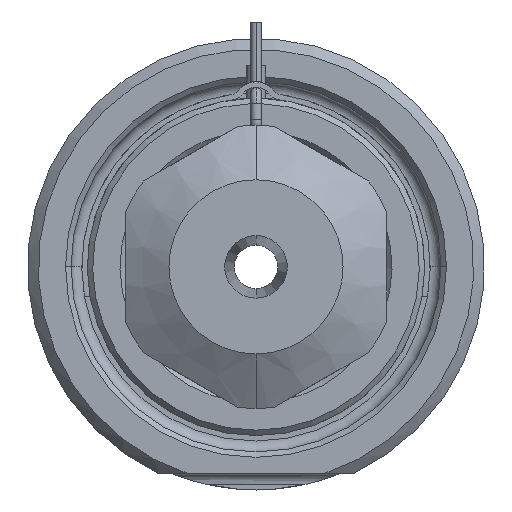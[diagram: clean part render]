
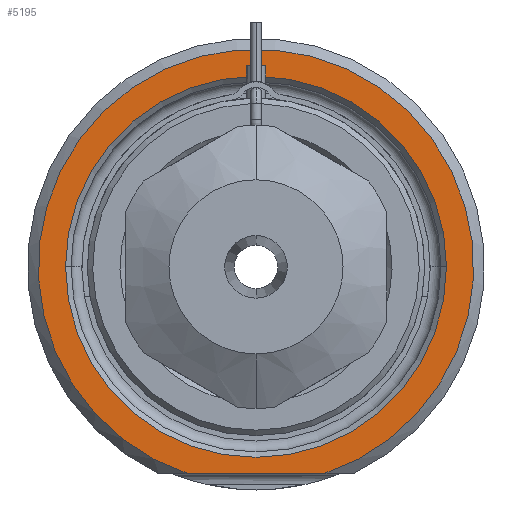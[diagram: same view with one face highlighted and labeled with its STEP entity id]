
A CAD part, front view. The second image highlights one B-rep face of the part: STEP entity #5195.
In plain terms, the highlighted planar face has unit normal (0, -1, 0).
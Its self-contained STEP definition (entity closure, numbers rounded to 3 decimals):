
#1583=DIRECTION('',(1.,0.,0.));
#1584=VECTOR('',#1583,12.49);
#1585=CARTESIAN_POINT('',(-6.245,0.,-19.));
#1586=LINE('',#1585,#1584);
#1587=CARTESIAN_POINT('',(0.,0.,0.));
#1588=DIRECTION('',(0.,1.,0.));
#1589=DIRECTION('',(-1.,0.,0.));
#1590=AXIS2_PLACEMENT_3D('',#1587,#1588,#1589);
#1592=CARTESIAN_POINT('',(0.,0.,0.));
#1593=DIRECTION('',(0.,1.,0.));
#1594=DIRECTION('',(1.,0.,0.));
#1595=AXIS2_PLACEMENT_3D('',#1592,#1593,#1594);
#1701=CARTESIAN_POINT('',(0.,0.,0.));
#1702=DIRECTION('',(0.,-1.,0.));
#1703=DIRECTION('',(0.312,0.,-0.95));
#1704=AXIS2_PLACEMENT_3D('',#1701,#1702,#1703);
#2795=CARTESIAN_POINT('',(-17.5,0.,0.));
#2796=CARTESIAN_POINT('',(17.5,0.,0.));
#2797=VERTEX_POINT('',#2795);
#2798=VERTEX_POINT('',#2796);
#2839=CARTESIAN_POINT('',(-6.245,0.,-19.));
#2840=CARTESIAN_POINT('',(6.245,0.,-19.));
#2841=VERTEX_POINT('',#2839);
#2842=VERTEX_POINT('',#2840);
#5179=CARTESIAN_POINT('',(0.,0.,0.));
#5180=DIRECTION('',(0.,-1.,0.));
#5181=DIRECTION('',(1.,0.,0.));
#5182=AXIS2_PLACEMENT_3D('',#5179,#5180,#5181);
#5183=PLANE('',#5182);
#5185=ORIENTED_EDGE('',*,*,#5184,.F.);
#5187=ORIENTED_EDGE('',*,*,#5186,.F.);
#5188=EDGE_LOOP('',(#5185,#5187));
#5189=FACE_OUTER_BOUND('',#5188,.F.);
#5190=ORIENTED_EDGE('',*,*,#5169,.F.);
#5192=ORIENTED_EDGE('',*,*,#5191,.F.);
#5193=EDGE_LOOP('',(#5190,#5192));
#5194=FACE_BOUND('',#5193,.F.);
#5195=ADVANCED_FACE('',(#5189,#5194),#5183,.T.);
#1591=CIRCLE('',#1590,17.5);
#1596=CIRCLE('',#1595,17.5);
#1705=CIRCLE('',#1704,20.);
#5169=EDGE_CURVE('',#2797,#2798,#1591,.T.);
#5184=EDGE_CURVE('',#2841,#2842,#1586,.T.);
#5186=EDGE_CURVE('',#2842,#2841,#1705,.T.);
#5191=EDGE_CURVE('',#2798,#2797,#1596,.T.);
